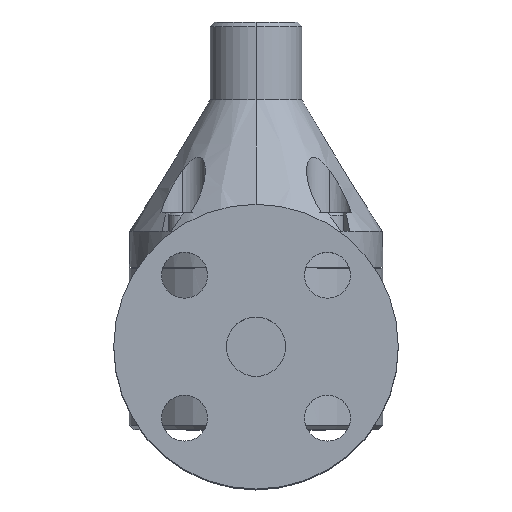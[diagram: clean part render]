
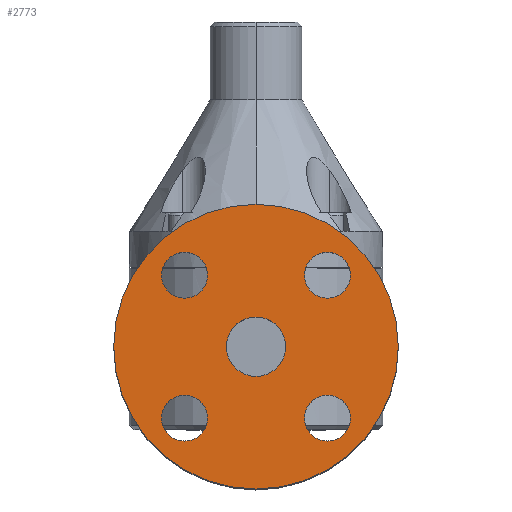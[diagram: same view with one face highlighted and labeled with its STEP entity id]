
A CAD part, top view. The second image highlights one B-rep face of the part: STEP entity #2773.
In plain terms, the highlighted planar face has unit normal (0, 0, 1).
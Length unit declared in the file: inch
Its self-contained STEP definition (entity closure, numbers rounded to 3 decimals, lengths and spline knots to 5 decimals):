
#46 = EDGE_LOOP ( 'NONE', ( #4874, #4735 ) ) ;
#58 = AXIS2_PLACEMENT_3D ( 'NONE', #2847, #397, #3249 ) ;
#75 = AXIS2_PLACEMENT_3D ( 'NONE', #3618, #1295, #4047 ) ;
#159 = CIRCLE ( 'NONE', #2090, 0.404 ) ;
#174 = CARTESIAN_POINT ( 'NONE',  ( 0., 1.125, 3.75 ) ) ;
#201 = AXIS2_PLACEMENT_3D ( 'NONE', #1993, #4800, #2377 ) ;
#272 = ORIENTED_EDGE ( 'NONE', *, *, #983, .T. ) ;
#306 = AXIS2_PLACEMENT_3D ( 'NONE', #3509, #1170, #3933 ) ;
#326 = AXIS2_PLACEMENT_3D ( 'NONE', #3830, #1474, #4246 ) ;
#397 = DIRECTION ( 'NONE',  ( 0., 0., 1. ) ) ;
#411 = EDGE_LOOP ( 'NONE', ( #2004, #272 ) ) ;
#432 = AXIS2_PLACEMENT_3D ( 'NONE', #502, #4581, #2175 ) ;
#502 = CARTESIAN_POINT ( 'NONE',  ( 0., 1.125, 3.75 ) ) ;
#520 = ORIENTED_EDGE ( 'NONE', *, *, #948, .F. ) ;
#585 = CIRCLE ( 'NONE', #201, 0.3125 ) ;
#649 = DIRECTION ( 'NONE',  ( 1., 0., 0. ) ) ;
#658 = FACE_OUTER_BOUND ( 'NONE', #411, .T. ) ;
#823 = FACE_BOUND ( 'NONE', #3996, .T. ) ;
#920 = EDGE_CURVE ( 'NONE', #1010, #1234, #159, .T. ) ;
#924 = ORIENTED_EDGE ( 'NONE', *, *, #2956, .F. ) ;
#926 = DIRECTION ( 'NONE',  ( 0., 0., 1. ) ) ;
#927 = EDGE_CURVE ( 'NONE', #4621, #3577, #3052, .T. ) ;
#941 = CARTESIAN_POINT ( 'NONE',  ( 0., 1.125, 3.75 ) ) ;
#942 = EDGE_CURVE ( 'NONE', #4809, #1287, #974, .T. ) ;
#948 = EDGE_CURVE ( 'NONE', #4664, #3494, #4156, .T. ) ;
#957 = EDGE_CURVE ( 'NONE', #1644, #2783, #4027, .T. ) ;
#974 = CIRCLE ( 'NONE', #2062, 0.3125 ) ;
#983 = EDGE_CURVE ( 'NONE', #2691, #3819, #1908, .T. ) ;
#1010 = VERTEX_POINT ( 'NONE', #4137 ) ;
#1136 = ORIENTED_EDGE ( 'NONE', *, *, #3054, .F. ) ;
#1144 = CARTESIAN_POINT ( 'NONE',  ( -1.28477, 0.15273, 3.75 ) ) ;
#1170 = DIRECTION ( 'NONE',  ( 0., 0., 1. ) ) ;
#1234 = VERTEX_POINT ( 'NONE', #5093 ) ;
#1287 = VERTEX_POINT ( 'NONE', #5125 ) ;
#1295 = DIRECTION ( 'NONE',  ( 0., 0., 1. ) ) ;
#1313 = CIRCLE ( 'NONE', #326, 0.3125 ) ;
#1379 = CIRCLE ( 'NONE', #75, 0.3125 ) ;
#1390 = DIRECTION ( 'NONE',  ( 1., 0., 0. ) ) ;
#1474 = DIRECTION ( 'NONE',  ( 0., 0., 1. ) ) ;
#1519 = DIRECTION ( 'NONE',  ( 0., 0., 1. ) ) ;
#1644 = VERTEX_POINT ( 'NONE', #3473 ) ;
#1664 = FACE_BOUND ( 'NONE', #46, .T. ) ;
#1745 = DIRECTION ( 'NONE',  ( 0., 0., 1. ) ) ;
#1785 = PLANE ( 'NONE',  #432 ) ;
#1908 = CIRCLE ( 'NONE', #2008, 1.9375 ) ;
#1993 = CARTESIAN_POINT ( 'NONE',  ( -0.97227, 0.15273, 3.75 ) ) ;
#2004 = ORIENTED_EDGE ( 'NONE', *, *, #3094, .T. ) ;
#2008 = AXIS2_PLACEMENT_3D ( 'NONE', #941, #3721, #1390 ) ;
#2025 = AXIS2_PLACEMENT_3D ( 'NONE', #4959, #2523, #5389 ) ;
#2035 = AXIS2_PLACEMENT_3D ( 'NONE', #3291, #926, #3703 ) ;
#2062 = AXIS2_PLACEMENT_3D ( 'NONE', #2116, #4934, #2508 ) ;
#2076 = AXIS2_PLACEMENT_3D ( 'NONE', #3875, #1519, #4292 ) ;
#2090 = AXIS2_PLACEMENT_3D ( 'NONE', #174, #3050, #649 ) ;
#2116 = CARTESIAN_POINT ( 'NONE',  ( 0.97227, 0.15273, 3.75 ) ) ;
#2142 = ORIENTED_EDGE ( 'NONE', *, *, #942, .F. ) ;
#2152 = CIRCLE ( 'NONE', #58, 1.9375 ) ;
#2175 = DIRECTION ( 'NONE',  ( 1., 0., 0. ) ) ;
#2377 = DIRECTION ( 'NONE',  ( 0., 1., 0. ) ) ;
#2388 = EDGE_LOOP ( 'NONE', ( #520, #3892 ) ) ;
#2508 = DIRECTION ( 'NONE',  ( -1., 0., 0. ) ) ;
#2523 = DIRECTION ( 'NONE',  ( 0., 0., 1. ) ) ;
#2554 = CARTESIAN_POINT ( 'NONE',  ( -1.28477, 2.09727, 3.75 ) ) ;
#2672 = FACE_BOUND ( 'NONE', #4797, .T. ) ;
#2691 = VERTEX_POINT ( 'NONE', #2860 ) ;
#2773 = ADVANCED_FACE ( 'NONE', ( #823, #4858, #3757, #2672, #1664, #658 ), #1785, .T. ) ;
#2783 = VERTEX_POINT ( 'NONE', #2554 ) ;
#2847 = CARTESIAN_POINT ( 'NONE',  ( 0., 1.125, 3.75 ) ) ;
#2860 = CARTESIAN_POINT ( 'NONE',  ( -1.9375, 1.125, 3.75 ) ) ;
#2904 = EDGE_CURVE ( 'NONE', #3577, #4621, #1313, .T. ) ;
#2956 = EDGE_CURVE ( 'NONE', #1287, #4809, #5183, .T. ) ;
#2997 = EDGE_CURVE ( 'NONE', #3494, #4664, #585, .T. ) ;
#3024 = ORIENTED_EDGE ( 'NONE', *, *, #2904, .F. ) ;
#3050 = DIRECTION ( 'NONE',  ( 0., 0., 1. ) ) ;
#3052 = CIRCLE ( 'NONE', #2076, 0.3125 ) ;
#3054 = EDGE_CURVE ( 'NONE', #2783, #1644, #1379, .T. ) ;
#3094 = EDGE_CURVE ( 'NONE', #3819, #2691, #2152, .T. ) ;
#3153 = EDGE_CURVE ( 'NONE', #1234, #1010, #4012, .T. ) ;
#3249 = DIRECTION ( 'NONE',  ( 1., 0., 0. ) ) ;
#3291 = CARTESIAN_POINT ( 'NONE',  ( -0.97227, 0.15273, 3.75 ) ) ;
#3473 = CARTESIAN_POINT ( 'NONE',  ( -0.65977, 2.09727, 3.75 ) ) ;
#3494 = VERTEX_POINT ( 'NONE', #1144 ) ;
#3509 = CARTESIAN_POINT ( 'NONE',  ( 0.97227, 0.15273, 3.75 ) ) ;
#3521 = CARTESIAN_POINT ( 'NONE',  ( 0.65977, 2.09727, 3.75 ) ) ;
#3577 = VERTEX_POINT ( 'NONE', #3521 ) ;
#3618 = CARTESIAN_POINT ( 'NONE',  ( -0.97227, 2.09727, 3.75 ) ) ;
#3698 = CARTESIAN_POINT ( 'NONE',  ( 1.28477, 0.15273, 3.75 ) ) ;
#3703 = DIRECTION ( 'NONE',  ( 0., 1., 0. ) ) ;
#3721 = DIRECTION ( 'NONE',  ( 0., 0., 1. ) ) ;
#3757 = FACE_BOUND ( 'NONE', #2388, .T. ) ;
#3819 = VERTEX_POINT ( 'NONE', #4008 ) ;
#3830 = CARTESIAN_POINT ( 'NONE',  ( 0.97227, 2.09727, 3.75 ) ) ;
#3837 = CARTESIAN_POINT ( 'NONE',  ( 1.28477, 2.09727, 3.75 ) ) ;
#3875 = CARTESIAN_POINT ( 'NONE',  ( 0.97227, 2.09727, 3.75 ) ) ;
#3892 = ORIENTED_EDGE ( 'NONE', *, *, #2997, .F. ) ;
#3933 = DIRECTION ( 'NONE',  ( -1., 0., 0. ) ) ;
#3996 = EDGE_LOOP ( 'NONE', ( #4811, #3024 ) ) ;
#4008 = CARTESIAN_POINT ( 'NONE',  ( 1.9375, 1.125, 3.75 ) ) ;
#4012 = CIRCLE ( 'NONE', #4665, 0.404 ) ;
#4027 = CIRCLE ( 'NONE', #2025, 0.3125 ) ;
#4047 = DIRECTION ( 'NONE',  ( 1., 0., 0. ) ) ;
#4117 = CARTESIAN_POINT ( 'NONE',  ( 0., 1.125, 3.75 ) ) ;
#4137 = CARTESIAN_POINT ( 'NONE',  ( 0.404, 1.125, 3.75 ) ) ;
#4156 = CIRCLE ( 'NONE', #2035, 0.3125 ) ;
#4246 = DIRECTION ( 'NONE',  ( 0., -1., 0. ) ) ;
#4292 = DIRECTION ( 'NONE',  ( 0., -1., 0. ) ) ;
#4530 = DIRECTION ( 'NONE',  ( 1., 0., 0. ) ) ;
#4581 = DIRECTION ( 'NONE',  ( 0., 0., 1. ) ) ;
#4621 = VERTEX_POINT ( 'NONE', #3837 ) ;
#4664 = VERTEX_POINT ( 'NONE', #5226 ) ;
#4665 = AXIS2_PLACEMENT_3D ( 'NONE', #4117, #1745, #4530 ) ;
#4735 = ORIENTED_EDGE ( 'NONE', *, *, #3153, .F. ) ;
#4797 = EDGE_LOOP ( 'NONE', ( #5383, #1136 ) ) ;
#4800 = DIRECTION ( 'NONE',  ( 0., 0., 1. ) ) ;
#4809 = VERTEX_POINT ( 'NONE', #3698 ) ;
#4811 = ORIENTED_EDGE ( 'NONE', *, *, #927, .F. ) ;
#4858 = FACE_BOUND ( 'NONE', #5074, .T. ) ;
#4874 = ORIENTED_EDGE ( 'NONE', *, *, #920, .F. ) ;
#4934 = DIRECTION ( 'NONE',  ( 0., 0., 1. ) ) ;
#4959 = CARTESIAN_POINT ( 'NONE',  ( -0.97227, 2.09727, 3.75 ) ) ;
#5074 = EDGE_LOOP ( 'NONE', ( #2142, #924 ) ) ;
#5093 = CARTESIAN_POINT ( 'NONE',  ( -0.404, 1.125, 3.75 ) ) ;
#5125 = CARTESIAN_POINT ( 'NONE',  ( 0.65977, 0.15273, 3.75 ) ) ;
#5183 = CIRCLE ( 'NONE', #306, 0.3125 ) ;
#5226 = CARTESIAN_POINT ( 'NONE',  ( -0.65977, 0.15273, 3.75 ) ) ;
#5383 = ORIENTED_EDGE ( 'NONE', *, *, #957, .F. ) ;
#5389 = DIRECTION ( 'NONE',  ( 1., 0., 0. ) ) ;
